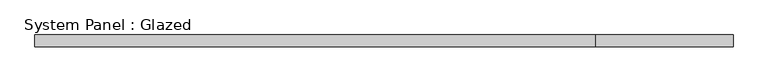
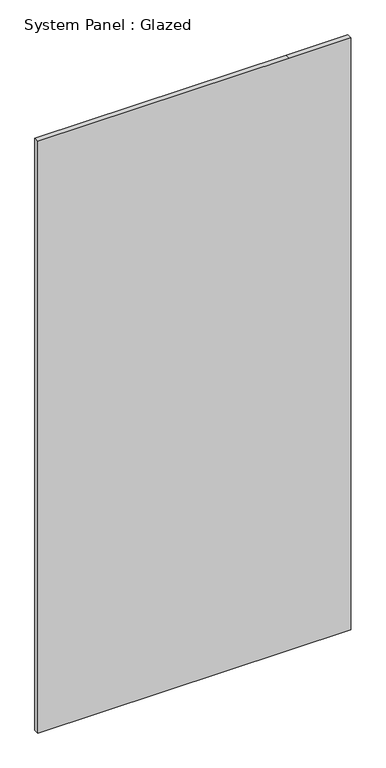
"""IFC4 building model written with IfcOpenShell, lengths in millimetres: plate geometry, System Panel : Glazed."""

from ifc_helpers import new_model, si_unit, frame, origin, place, context, project, spatial, polyline, outline, extrude, source, transform, mapped, element, save


def system_panel_glazed_a35de711(model_context):
    return source(origin(), model_context, "Body", "SweptSolid", [
        extrude(outline(polyline([(0.0, -762.0), (0.0, 762.0), (3048.0, 762.0), (3048.0, 462.7242989), (3048.0, -762.0), (0.0, -762.0)])), frame((0.0, -44.45, 0.0), z_axis=(0.0, 1.0, 0.0), x_axis=(0.0, 0.0, 1.0)), (0.0, 0.0, 1.0), 25.4),
    ])


if __name__ == "__main__":
    model = new_model("IFC4")
    model_context = context("Model", 3, world=origin())
    ifc_project = project(units=[si_unit("LENGTHUNIT", "METRE", prefix="MILLI")], contexts=[model_context])
    site = spatial("IfcSite", under=ifc_project)
    building = spatial("IfcBuilding", under=site)
    placement = place(None, origin())
    system_panel_glazed_shape = system_panel_glazed_a35de711(model_context)
    element("IfcPlate", 1, ObjectType="System Panel : Glazed", at=placement, inside=building, context=model_context, shape_type="MappedRepresentation", body=[
        mapped(system_panel_glazed_shape, transform((0.0, 0.0, 0.0), x_axis=(1.0, 0.0, 0.0), y_axis=(0.0, 1.0, 0.0), z_axis=(0.0, 0.0, 1.0))),
    ])
    save(model, "model.ifc")
